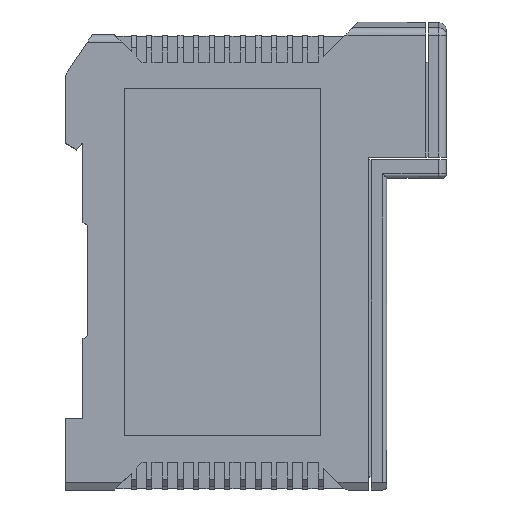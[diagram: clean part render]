
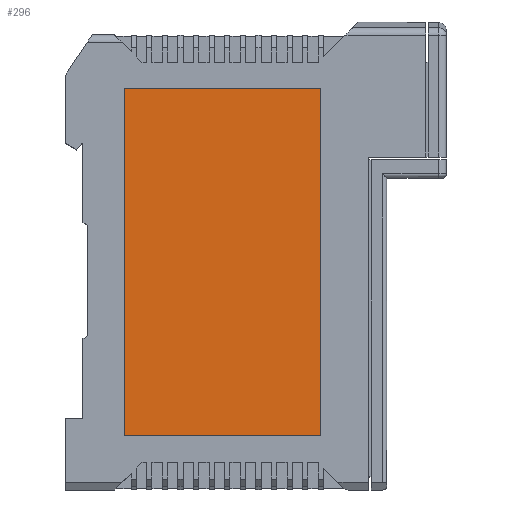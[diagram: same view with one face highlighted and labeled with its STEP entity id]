
A CAD part, top view. The second image highlights one B-rep face of the part: STEP entity #296.
In plain terms, the highlighted planar face has unit normal (0, 0, 1).
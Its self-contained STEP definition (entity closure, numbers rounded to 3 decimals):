
#296=ADVANCED_FACE('',(#2661),#2663,.T.);
#2661=FACE_BOUND('',#2662,.T.);
#2662=EDGE_LOOP('',(#13965,#13966,#13967,#13968));
#2663=PLANE('',#2664);
#2664=AXIS2_PLACEMENT_3D('',#2665,#2666,#2667);
#2665=CARTESIAN_POINT('',(0.,0.,-0.5));
#2666=DIRECTION('',(0.,0.,1.));
#2667=DIRECTION('',(1.,0.,0.));
#13965=ORIENTED_EDGE('',*,*,#21084,.T.);
#13966=ORIENTED_EDGE('',*,*,#21082,.T.);
#13967=ORIENTED_EDGE('',*,*,#21080,.T.);
#13968=ORIENTED_EDGE('',*,*,#21078,.T.);
#21078=EDGE_CURVE('',#25472,#25470,#25473,.T.);
#21080=EDGE_CURVE('',#25475,#25472,#25476,.T.);
#21082=EDGE_CURVE('',#25478,#25475,#25479,.T.);
#21084=EDGE_CURVE('',#25470,#25478,#25481,.T.);
#25470=VERTEX_POINT('',#32830);
#25472=VERTEX_POINT('',#32834);
#25473=LINE('',#32835,#32836);
#25475=VERTEX_POINT('',#32841);
#25476=LINE('',#32842,#32843);
#25478=VERTEX_POINT('',#32848);
#25479=LINE('',#32849,#32850);
#25481=LINE('',#32855,#32856);
#32830=CARTESIAN_POINT('',(-48.4,-25.75,-0.5));
#32834=CARTESIAN_POINT('',(-48.4,-159.15,-0.5));
#32835=CARTESIAN_POINT('',(-48.4,-159.15,-0.5));
#32836=VECTOR('',#32837,1.);
#32837=DIRECTION('',(0.,1.,0.));
#32841=CARTESIAN_POINT('',(-123.9,-159.15,-0.5));
#32842=CARTESIAN_POINT('',(-123.9,-159.15,-0.5));
#32843=VECTOR('',#32844,1.);
#32844=DIRECTION('',(1.,0.,0.));
#32848=CARTESIAN_POINT('',(-123.9,-25.75,-0.5));
#32849=CARTESIAN_POINT('',(-123.9,-25.75,-0.5));
#32850=VECTOR('',#32851,1.);
#32851=DIRECTION('',(0.,-1.,0.));
#32855=CARTESIAN_POINT('',(-48.4,-25.75,-0.5));
#32856=VECTOR('',#32857,1.);
#32857=DIRECTION('',(-1.,0.,0.));
